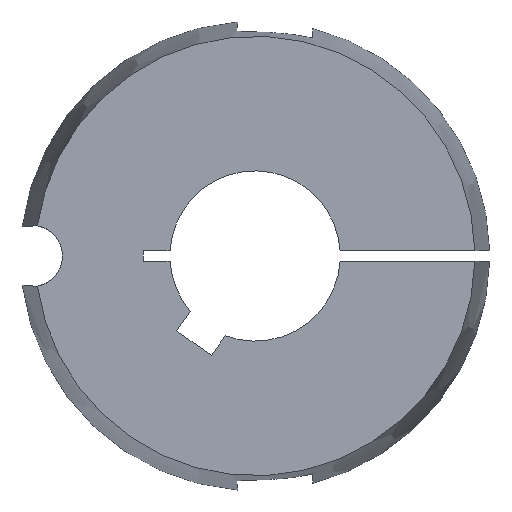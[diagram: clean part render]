
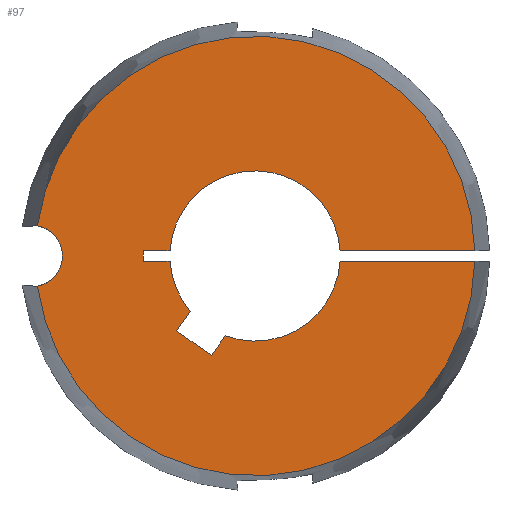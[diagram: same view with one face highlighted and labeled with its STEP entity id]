
A CAD part, left-side view. The second image highlights one B-rep face of the part: STEP entity #97.
In plain terms, the highlighted planar face has unit normal (-1, 0, 0).
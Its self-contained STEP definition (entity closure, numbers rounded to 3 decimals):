
#97 = ADVANCED_FACE( '', ( #148 ), #149, .T. );
#148 = FACE_OUTER_BOUND( '', #204, .T. );
#149 = PLANE( '', #205 );
#204 = EDGE_LOOP( '', ( #398, #399, #400, #401, #402, #403, #404, #405, #406, #407, #408, #409, #410, #411, #412, #413 ) );
#205 = AXIS2_PLACEMENT_3D( '', #414, #415, #416 );
#398 = ORIENTED_EDGE( '', *, *, #495, .T. );
#399 = ORIENTED_EDGE( '', *, *, #459, .T. );
#400 = ORIENTED_EDGE( '', *, *, #484, .T. );
#401 = ORIENTED_EDGE( '', *, *, #518, .T. );
#402 = ORIENTED_EDGE( '', *, *, #520, .T. );
#403 = ORIENTED_EDGE( '', *, *, #521, .T. );
#404 = ORIENTED_EDGE( '', *, *, #522, .T. );
#405 = ORIENTED_EDGE( '', *, *, #523, .T. );
#406 = ORIENTED_EDGE( '', *, *, #515, .T. );
#407 = ORIENTED_EDGE( '', *, *, #510, .T. );
#408 = ORIENTED_EDGE( '', *, *, #511, .T. );
#409 = ORIENTED_EDGE( '', *, *, #514, .T. );
#410 = ORIENTED_EDGE( '', *, *, #524, .T. );
#411 = ORIENTED_EDGE( '', *, *, #455, .T. );
#412 = ORIENTED_EDGE( '', *, *, #519, .T. );
#413 = ORIENTED_EDGE( '', *, *, #492, .T. );
#414 = CARTESIAN_POINT( '', ( -31.8, 16.388, 0. ) );
#415 = DIRECTION( '', ( -1., 0., 0. ) );
#416 = DIRECTION( '', ( 0., 1., 0. ) );
#455 = EDGE_CURVE( '', #529, #533, #535, .T. );
#459 = EDGE_CURVE( '', #537, #541, #543, .T. );
#484 = EDGE_CURVE( '', #541, #584, #586, .T. );
#492 = EDGE_CURVE( '', #598, #596, #599, .T. );
#495 = EDGE_CURVE( '', #596, #537, #603, .T. );
#510 = EDGE_CURVE( '', #625, #627, #629, .T. );
#511 = EDGE_CURVE( '', #627, #630, #631, .T. );
#514 = EDGE_CURVE( '', #630, #633, #635, .T. );
#515 = EDGE_CURVE( '', #636, #625, #637, .T. );
#518 = EDGE_CURVE( '', #584, #639, #641, .T. );
#519 = EDGE_CURVE( '', #533, #598, #642, .T. );
#520 = EDGE_CURVE( '', #639, #643, #644, .T. );
#521 = EDGE_CURVE( '', #643, #645, #646, .T. );
#522 = EDGE_CURVE( '', #645, #647, #648, .T. );
#523 = EDGE_CURVE( '', #647, #636, #649, .T. );
#524 = EDGE_CURVE( '', #633, #529, #650, .T. );
#529 = VERTEX_POINT( '', #655 );
#533 = VERTEX_POINT( '', #660 );
#535 = CIRCLE( '', #663, 12.7 );
#537 = VERTEX_POINT( '', #665 );
#541 = VERTEX_POINT( '', #670 );
#543 = CIRCLE( '', #681, 4.6 );
#584 = VERTEX_POINT( '', #864 );
#586 = CIRCLE( '', #875, 32.776 );
#596 = VERTEX_POINT( '', #927 );
#598 = VERTEX_POINT( '', #938 );
#599 = CIRCLE( '', #939, 32.776 );
#603 = CIRCLE( '', #952, 4.6 );
#625 = VERTEX_POINT( '', #982 );
#627 = VERTEX_POINT( '', #985 );
#629 = LINE( '', #988, #989 );
#630 = VERTEX_POINT( '', #990 );
#631 = LINE( '', #991, #992 );
#633 = VERTEX_POINT( '', #995 );
#635 = LINE( '', #998, #999 );
#636 = VERTEX_POINT( '', #1000 );
#637 = CIRCLE( '', #1001, 12.7 );
#639 = VERTEX_POINT( '', #1004 );
#641 = LINE( '', #1007, #1008 );
#642 = LINE( '', #1009, #1010 );
#643 = VERTEX_POINT( '', #1011 );
#644 = CIRCLE( '', #1012, 12.7 );
#645 = VERTEX_POINT( '', #1013 );
#646 = LINE( '', #1014, #1015 );
#647 = VERTEX_POINT( '', #1016 );
#648 = LINE( '', #1017, #1018 );
#649 = LINE( '', #1019, #1020 );
#650 = CIRCLE( '', #1021, 12.7 );
#655 = CARTESIAN_POINT( '', ( -31.8, -9.654, 8.252 ) );
#660 = CARTESIAN_POINT( '', ( -31.8, -12.678, 0.75 ) );
#663 = AXIS2_PLACEMENT_3D( '', #1033, #1034, #1035 );
#665 = CARTESIAN_POINT( '', ( -31.8, 28.74, 0. ) );
#670 = CARTESIAN_POINT( '', ( -31.8, 32.464, -4.516 ) );
#681 = AXIS2_PLACEMENT_3D( '', #1040, #1041, #1042 );
#864 = CARTESIAN_POINT( '', ( -31.8, -32.768, -0.75 ) );
#875 = AXIS2_PLACEMENT_3D( '', #1076, #1077, #1078 );
#927 = CARTESIAN_POINT( '', ( -31.8, 32.464, 4.516 ) );
#938 = CARTESIAN_POINT( '', ( -31.8, -32.768, 0.75 ) );
#939 = AXIS2_PLACEMENT_3D( '', #1091, #1092, #1093 );
#952 = AXIS2_PLACEMENT_3D( '', #1097, #1098, #1099 );
#982 = CARTESIAN_POINT( '', ( -31.8, 12.678, -0.75 ) );
#985 = CARTESIAN_POINT( '', ( -31.8, 16.7, -0.75 ) );
#988 = CARTESIAN_POINT( '', ( -31.8, 8.194, -0.75 ) );
#989 = VECTOR( '', #1122, 1. );
#990 = CARTESIAN_POINT( '', ( -31.8, 16.7, 0.75 ) );
#991 = CARTESIAN_POINT( '', ( -31.8, 16.7, -0.375 ) );
#992 = VECTOR( '', #1123, 1. );
#995 = CARTESIAN_POINT( '', ( -31.8, 12.678, 0.75 ) );
#998 = CARTESIAN_POINT( '', ( -31.8, 16.544, 0.75 ) );
#999 = VECTOR( '', #1126, 1. );
#1000 = CARTESIAN_POINT( '', ( -31.8, 9.654, -8.252 ) );
#1001 = AXIS2_PLACEMENT_3D( '', #1127, #1128, #1129 );
#1004 = CARTESIAN_POINT( '', ( -31.8, -12.678, -0.75 ) );
#1007 = CARTESIAN_POINT( '', ( -31.8, -9.306, -0.75 ) );
#1008 = VECTOR( '', #1132, 1. );
#1009 = CARTESIAN_POINT( '', ( -31.8, 8.194, 0.75 ) );
#1010 = VECTOR( '', #1133, 1. );
#1011 = CARTESIAN_POINT( '', ( -31.8, 4.452, -11.894 ) );
#1012 = AXIS2_PLACEMENT_3D( '', #1134, #1135, #1136 );
#1013 = CARTESIAN_POINT( '', ( -31.8, 6.505, -14.825 ) );
#1014 = CARTESIAN_POINT( '', ( -31.8, 3.622, -10.708 ) );
#1015 = VECTOR( '', #1137, 1. );
#1016 = CARTESIAN_POINT( '', ( -31.8, 11.706, -11.183 ) );
#1017 = CARTESIAN_POINT( '', ( -31.8, 13.303, -10.065 ) );
#1018 = VECTOR( '', #1138, 1. );
#1019 = CARTESIAN_POINT( '', ( -31.8, 9.849, -8.531 ) );
#1020 = VECTOR( '', #1139, 1. );
#1021 = AXIS2_PLACEMENT_3D( '', #1140, #1141, #1142 );
#1033 = CARTESIAN_POINT( '', ( -31.8, 0., 0. ) );
#1034 = DIRECTION( '', ( 1., 0., 0. ) );
#1035 = DIRECTION( '', ( 0., 0.76, -0.65 ) );
#1040 = CARTESIAN_POINT( '', ( -31.8, 33.34, 0. ) );
#1041 = DIRECTION( '', ( 1., 0., 0. ) );
#1042 = DIRECTION( '', ( 0., 1., 0. ) );
#1076 = CARTESIAN_POINT( '', ( -31.8, 0., 0. ) );
#1077 = DIRECTION( '', ( -1., 0., 0. ) );
#1078 = DIRECTION( '', ( 0., 1., 0. ) );
#1091 = CARTESIAN_POINT( '', ( -31.8, 0., 0. ) );
#1092 = DIRECTION( '', ( -1., 0., 0. ) );
#1093 = DIRECTION( '', ( 0., 1., 0. ) );
#1097 = CARTESIAN_POINT( '', ( -31.8, 33.34, 0. ) );
#1098 = DIRECTION( '', ( 1., 0., 0. ) );
#1099 = DIRECTION( '', ( 0., 1., 0. ) );
#1122 = DIRECTION( '', ( 0., 1., 0. ) );
#1123 = DIRECTION( '', ( 0., 0., 1. ) );
#1126 = DIRECTION( '', ( 0., -1., 0. ) );
#1127 = CARTESIAN_POINT( '', ( -31.8, 0., 0. ) );
#1128 = DIRECTION( '', ( 1., 0., 0. ) );
#1129 = DIRECTION( '', ( 0., 0.76, -0.65 ) );
#1132 = DIRECTION( '', ( 0., 1., 0. ) );
#1133 = DIRECTION( '', ( 0., -1., 0. ) );
#1134 = CARTESIAN_POINT( '', ( -31.8, 0., 0. ) );
#1135 = DIRECTION( '', ( 1., 0., 0. ) );
#1136 = DIRECTION( '', ( 0., 0.76, -0.65 ) );
#1137 = DIRECTION( '', ( 0., 0.574, -0.819 ) );
#1138 = DIRECTION( '', ( 0., 0.819, 0.574 ) );
#1139 = DIRECTION( '', ( 0., -0.574, 0.819 ) );
#1140 = CARTESIAN_POINT( '', ( -31.8, 0., 0. ) );
#1141 = DIRECTION( '', ( 1., 0., 0. ) );
#1142 = DIRECTION( '', ( 0., 0.76, -0.65 ) );
